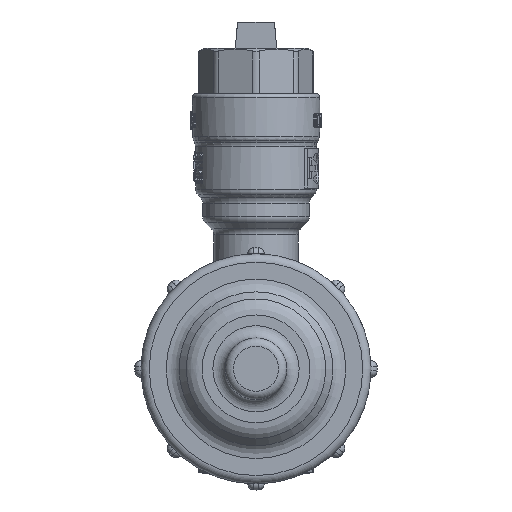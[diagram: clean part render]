
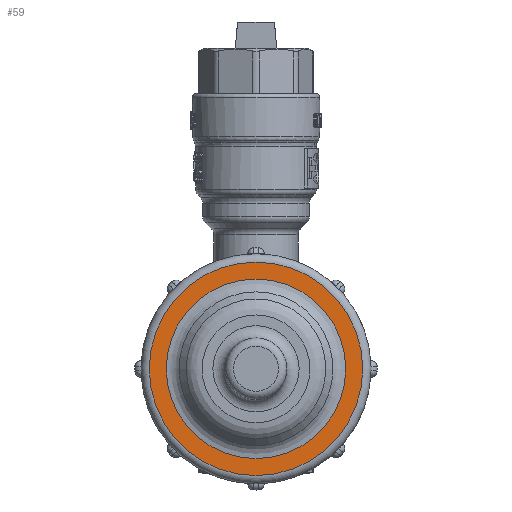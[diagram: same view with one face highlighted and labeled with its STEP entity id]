
A CAD part, top view. The second image highlights one B-rep face of the part: STEP entity #59.
In plain terms, the highlighted planar face has unit normal (0, 0, 1).
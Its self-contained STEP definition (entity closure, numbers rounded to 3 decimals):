
#59=ADVANCED_FACE('',(#1036,#1038),#1040,.T.);
#1036=FACE_BOUND('',#1037,.T.);
#1037=EDGE_LOOP('',(#10210));
#1038=FACE_BOUND('',#1039,.T.);
#1039=EDGE_LOOP('',(#10211));
#1040=PLANE('',#1041);
#1041=AXIS2_PLACEMENT_3D('',#1042,#1043,#1044);
#1042=CARTESIAN_POINT('',(0.,0.,42.));
#1043=DIRECTION('',(0.,0.,1.));
#1044=DIRECTION('',(-1.,0.,0.));
#10210=ORIENTED_EDGE('',*,*,#16532,.T.);
#10211=ORIENTED_EDGE('',*,*,#16533,.F.);
#16532=EDGE_CURVE('',#19199,#19199,#19200,.T.);
#16533=EDGE_CURVE('',#19201,#19201,#19202,.T.);
#19199=VERTEX_POINT('',#23499);
#19200=CIRCLE('',#23500,26.);
#19201=VERTEX_POINT('',#23504);
#19202=CIRCLE('',#23505,21.862);
#23499=CARTESIAN_POINT('',(-26.,0.,42.));
#23500=AXIS2_PLACEMENT_3D('',#23501,#23502,#23503);
#23501=CARTESIAN_POINT('',(0.,0.,42.));
#23502=DIRECTION('',(0.,0.,1.));
#23503=DIRECTION('',(-1.,0.,0.));
#23504=CARTESIAN_POINT('',(-21.862,0.,42.));
#23505=AXIS2_PLACEMENT_3D('',#23506,#23507,#23508);
#23506=CARTESIAN_POINT('',(0.,0.,42.));
#23507=DIRECTION('',(0.,0.,1.));
#23508=DIRECTION('',(-1.,0.,0.));
